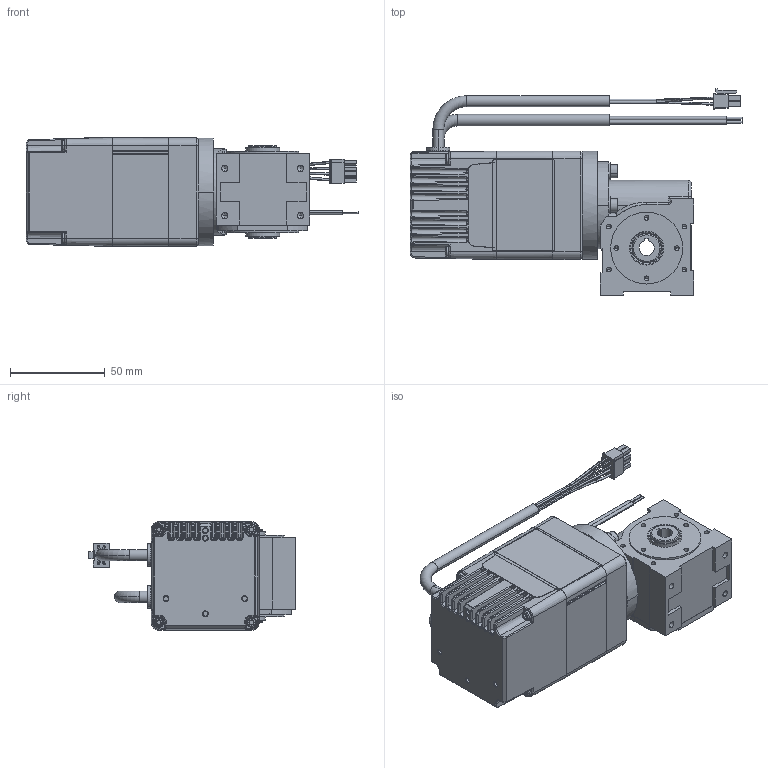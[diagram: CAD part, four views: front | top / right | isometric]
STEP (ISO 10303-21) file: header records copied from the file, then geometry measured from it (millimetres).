
FILE_DESCRIPTION (( 'STEP AP214' ), '1' );
FILE_NAME ('GP-SN15H R 77W.STEP', '2023-05-25T13:30:46', ( '' ), ( '' ), 'SwSTEP 2.0', 'SolidWorks 2021', '' );
FILE_SCHEMA (( 'AUTOMOTIVE_DESIGN' ));
Length unit declared in the file: millimetre
Products named in the file (16): SN15H_3D-Export; GP-SN15H R 77W; xa010873_1_6; 15H-G-005_3D-Export; 15-M-024 I 77W_4000Upm; xa010873_1_5; xa010873_1_3; xa010873_1; socket head cap screw_iso_ISO 4762 M4 x 12 - 12C; 15H-D-004_3D-Export; xa010873_1_4; hexa csunk flathd screw_iso_ISO 14581 M3x8x8-N; NBR_WDR_15x21x3; plain washer normal grade a_iso_Washer ISO 7089 - 4; xa010873_1_2; 15H-W-001_3D-Export
Assembly tree (23 placements, depth 3):
  GP-SN15H R 77W
    SN15H_3D-Export
      15H-G-005_3D-Export
      15H-D-004_3D-Export
      15H-W-001_3D-Export
      NBR_WDR_15x21x3  x2
      hexa csunk flathd screw_iso_ISO 14581 M3x8x8-N  x4
      plain washer normal grade a_iso_Washer ISO 7089 - 4  x3
      socket head cap screw_iso_ISO 4762 M4 x 12 - 12C  x3
    15-M-024 I 77W_4000Upm
      xa010873_1
      xa010873_1_3
      xa010873_1_6
      xa010873_1_5
      xa010873_1_4
      xa010873_1_2
Bounding box: 175.45 x 109.33 x 57.4 mm (x, y, z)
Volume: 414850.4 mm3; surface area: 85893.1 mm2
Topology: 21 solids, 21 shells, 1546 faces, 3757 edges, 2291 vertices
Faces by surface type: cylinder 584, plane 499, cone 206, bspline 106, torus 85, sphere 66
Entity records: 52748 total; most frequent: CARTESIAN_POINT 20310, ORIENTED_EDGE 6586, DIRECTION 6330, EDGE_CURVE 3293, AXIS2_PLACEMENT_3D 2346, VERTEX_POINT 2041, VECTOR 1638, LINE 1638
